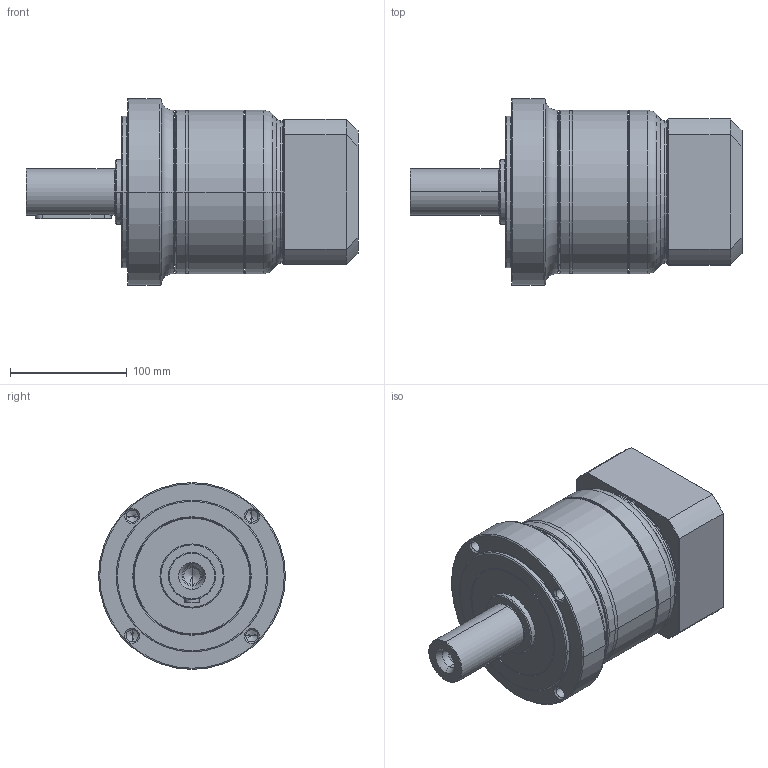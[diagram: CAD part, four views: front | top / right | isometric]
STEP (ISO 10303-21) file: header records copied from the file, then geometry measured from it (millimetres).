
FILE_DESCRIPTION((''),'2;1');
FILE_NAME('PG2-160_1ST_32-P0411700101_ASM','2016-04-12T',('d01943'),(''),'PRO/ENGINEER BY PARAMETRIC TECHNOLOGY CORPORATION, 2008410','PRO/ENGINEER BY PARAMETRIC TECHNOLOGY CORPORATION, 2008410','');
FILE_SCHEMA(('CONFIG_CONTROL_DESIGN'));
Length unit declared in the file: millimetre
Products named in the file (9): P1325510001; P0250500001; P1324500301; P0350501103; P0941503001; P0503700010; P0411700101; P1702600001; PG2-160_1ST_32-P0411700101_ASM
Assembly tree (8 placements, depth 2):
  PG2-160_1ST_32-P0411700101_ASM
    P1325510001
    P0250500001
    P1324500301
    P0350501103
    P0941503001
    P0503700010
    P0411700101
    P1702600001
Bounding box: 284.5 x 160 x 160 mm (x, y, z)
Volume: 2539075.4 mm3; surface area: 344712.6 mm2
Topology: 8 solids, 9 shells, 475 faces, 1049 edges, 603 vertices
Faces by surface type: cone 142, cylinder 140, torus 98, plane 79, bspline 16
Entity records: 17760 total; most frequent: CARTESIAN_POINT 7063, DIRECTION 2436, ORIENTED_EDGE 2030, AXIS2_PLACEMENT_3D 1045, EDGE_CURVE 1015, VERTEX_POINT 603, CIRCLE 569, EDGE_LOOP 538
